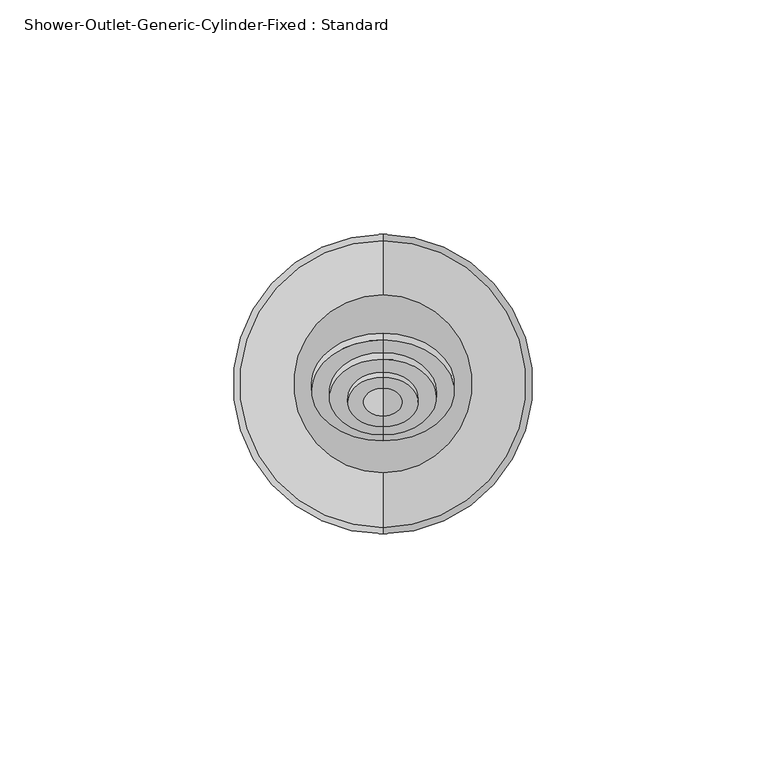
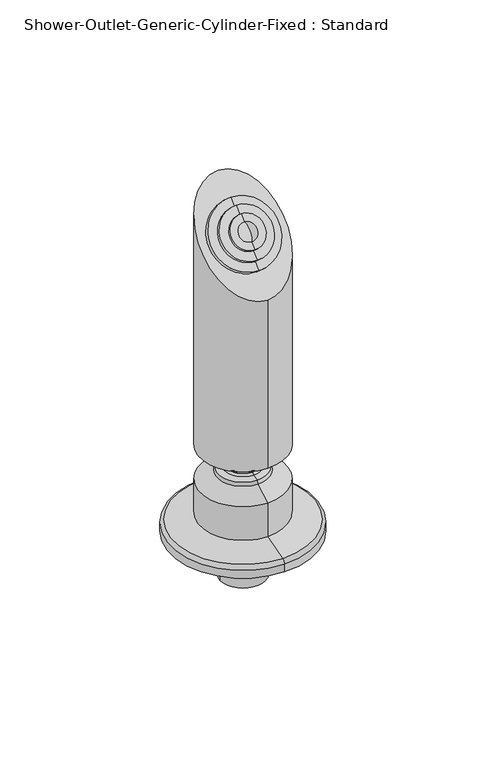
"""IFC4 building model written with IfcOpenShell, lengths in millimetres: flow terminal geometry, Shower-Outlet-Generic-Cylinder-Fixed : Standard."""

from ifc_helpers import new_model, si_unit, point, frame, origin, origin_2d, place, context, project, spatial, polyline, circle_curve, ellipse_curve, trimmed, segment, composite_curve, outline, extrude, source, transform, mapped, element, save
from ifc_brep_helpers import plane_surface, cylinder_surface, revolved_surface, advanced_brep


def shower_outlet_generic_cylinder_fixed_standard_5790de0d(model_context):
    return source(origin(), model_context, "Body", "SolidModel", [
        advanced_brep(
        [(0.0, -10.756032, 128.1039696), (0.0, 10.8105517, 149.6705533), (0.0, 0.0272599, 138.8872615), (0.0, -12.1702441, 129.5181817), (0.0, 9.3963396, 151.0847654), (0.0, -9.4719073, 132.2165184), (0.0, 6.6980029, 148.3864287), (0.0, -10.8861245, 133.6307355), (0.0, 5.2837858, 149.8006458), (0.0, -8.1037176, 136.4131424), (0.0, 2.5013789, 147.0182389), (0.0, -9.164373, 137.4737978), (0.0, 1.4407236, 148.0788943), (0.0, -6.8422888, 139.7958819), (0.0, -0.8813606, 145.7568102), (0.0, -5.3080659, 144.2225872)],
        [
            (0, 1, circle_curve(frame((0.0, 0.0272599, 138.8872615), z_axis=(0.0, 0.7071067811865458, -0.7071067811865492), x_axis=(0.0, 0.7071067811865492, 0.7071067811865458)), 15.2498776)),
            (1, 2),
            (2, 0),
            (1, 0, circle_curve(frame((0.0, 0.0272599, 138.8872615), z_axis=(0.0, 0.7071067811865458, -0.7071067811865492), x_axis=(0.0, 0.7071067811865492, 0.7071067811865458)), 15.2498776)),
            (3, 4, circle_curve(frame((0.0, -1.3869522, 140.3014735), z_axis=(0.0, 0.7071067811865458, -0.7071067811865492), x_axis=(0.0, 0.7071067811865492, 0.7071067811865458)), 15.2498776)),
            (4, 1),
            (0, 3),
            (4, 3, circle_curve(frame((0.0, -1.3869522, 140.3014735), z_axis=(0.0, 0.7071067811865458, -0.7071067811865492), x_axis=(0.0, 0.7071067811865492, 0.7071067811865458)), 15.2498776)),
            (5, 6, circle_curve(frame((0.0, -1.3869522, 140.3014735), z_axis=(0.0, 0.7071067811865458, -0.7071067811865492), x_axis=(0.0, 0.7071067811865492, 0.7071067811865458)), 11.4338532)),
            (6, 4),
            (3, 5),
            (6, 5, circle_curve(frame((0.0, -1.3869522, 140.3014735), z_axis=(0.0, 0.7071067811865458, -0.7071067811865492), x_axis=(0.0, 0.7071067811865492, 0.7071067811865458)), 11.4338532)),
            (7, 8, circle_curve(frame((0.0, -2.8011693, 141.7156907), z_axis=(0.0, 0.7071067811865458, -0.7071067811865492), x_axis=(0.0, 0.7071067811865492, 0.7071067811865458)), 11.4338532)),
            (8, 6),
            (5, 7),
            (8, 7, circle_curve(frame((0.0, -2.8011693, 141.7156907), z_axis=(0.0, 0.7071067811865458, -0.7071067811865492), x_axis=(0.0, 0.7071067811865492, 0.7071067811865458)), 11.4338532)),
            (9, 10, circle_curve(frame((0.0, -2.8011693, 141.7156907), z_axis=(0.0, 0.7071067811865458, -0.7071067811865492), x_axis=(0.0, 0.7071067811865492, 0.7071067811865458)), 7.4989357)),
            (10, 8),
            (7, 9),
            (10, 9, circle_curve(frame((0.0, -2.8011693, 141.7156907), z_axis=(0.0, 0.7071067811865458, -0.7071067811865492), x_axis=(0.0, 0.7071067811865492, 0.7071067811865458)), 7.4989357)),
            (11, 12, circle_curve(frame((0.0, -3.8618247, 142.776346), z_axis=(0.0, 0.7071067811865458, -0.7071067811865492), x_axis=(0.0, 0.7071067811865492, 0.7071067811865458)), 7.4989357)),
            (12, 10),
            (9, 11),
            (12, 11, circle_curve(frame((0.0, -3.8618247, 142.776346), z_axis=(0.0, 0.7071067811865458, -0.7071067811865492), x_axis=(0.0, 0.7071067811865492, 0.7071067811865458)), 7.4989357)),
            (13, 14, circle_curve(frame((0.0, -3.8618247, 142.776346), z_axis=(0.0, 0.7071067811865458, -0.7071067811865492), x_axis=(0.0, 0.7071067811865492, 0.7071067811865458)), 4.2150128)),
            (14, 12),
            (11, 13),
            (14, 13, circle_curve(frame((0.0, -3.8618247, 142.776346), z_axis=(0.0, 0.7071067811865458, -0.7071067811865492), x_axis=(0.0, 0.7071067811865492, 0.7071067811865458)), 4.2150128)),
            (15, 14, circle_curve(frame((0.0, -1.5138232, 140.4283445), z_axis=(-1.0, 0.0, 0.0), x_axis=(0.0, -1.0, 0.0)), 5.3658695)),
            (13, 15, circle_curve(frame((0.0, -1.5138232, 140.4283445), z_axis=(-1.0, 0.0, 0.0), x_axis=(0.0, 0.0, 1.0)), 5.3658695)),
        ],
        [
            plane_surface(frame((0.0, 0.0272599, 138.8872615), z_axis=(0.0, 0.7071067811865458, -0.7071067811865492), x_axis=(0.0, 0.7071067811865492, 0.7071067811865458))),
            cylinder_surface(frame((0.0, 0.0272599, 138.8872615), z_axis=(0.0, -0.7071067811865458, 0.7071067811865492), x_axis=(0.0, 0.7071067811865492, 0.7071067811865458)), 15.2498776),
            plane_surface(frame((0.0, -1.3869522, 140.3014735), z_axis=(0.0, -0.7071067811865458, 0.7071067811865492), x_axis=(0.0, 0.7071067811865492, 0.7071067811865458))),
            cylinder_surface(frame((0.0, 0.0272599, 138.8872615), z_axis=(0.0, -0.7071067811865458, 0.7071067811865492), x_axis=(0.0, 0.7071067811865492, 0.7071067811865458)), 11.4338532),
            plane_surface(frame((0.0, -2.8011693, 141.7156907), z_axis=(0.0, -0.7071067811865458, 0.7071067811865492), x_axis=(0.0, 0.7071067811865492, 0.7071067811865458))),
            cylinder_surface(frame((0.0, 0.0272599, 138.8872615), z_axis=(0.0, -0.7071067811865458, 0.7071067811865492), x_axis=(0.0, 0.7071067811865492, 0.7071067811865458)), 7.4989357),
            plane_surface(frame((0.0, -3.8618247, 142.776346), z_axis=(0.0, -0.7071067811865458, 0.7071067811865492), x_axis=(0.0, 0.7071067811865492, 0.7071067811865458))),
            revolved_surface(trimmed(ellipse_curve(frame((0.0, -1.5138232, 140.4283445), z_axis=(1.0, 0.0, 0.0), x_axis=(0.0, -1.0, 0.0)), 5.3658695, 5.3658695), [point((0.0, -0.8813606, 145.7568102))], [point((0.0, -5.3080659, 144.2225872))], True, "CARTESIAN"), (0.0, 0.0272599, 138.8872615), (0.0, -0.7071067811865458, 0.7071067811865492)),
        ],
        [
            (0, [[1, 2, 3]]),
            (0, [[4, -3, -2]]),
            (1, [[5, 6, -1, 7]]),
            (1, [[8, -7, -4, -6]]),
            (2, [[9, 10, -5, 11]]),
            (2, [[12, -11, -8, -10]]),
            (3, [[13, 14, -9, 15]]),
            (3, [[16, -15, -12, -14]]),
            (4, [[17, 18, -13, 19]]),
            (4, [[20, -19, -16, -18]]),
            (5, [[21, 22, -17, 23]]),
            (5, [[24, -23, -20, -22]]),
            (6, [[25, 26, -21, 27]]),
            (6, [[28, -27, -24, -26]]),
            (7, [[29, -25, 30]]),
            (7, [[-30, -28, -29]]),
        ],
    ),
        extrude(outline(composite_curve([segment(trimmed(circle_curve(origin_2d(), 10.0), [point((-10.0, 0.0))], [point((10.0, 0.0))], False, "CARTESIAN"), True, "CONTINUOUS"), segment(trimmed(circle_curve(origin_2d(), 10.0), [point((10.0, 0.0))], [point((-10.0, 0.0))], False, "CARTESIAN"), True, "CONTINUOUS")], self_intersect=False)), frame((0.0, 0.0, -20.0), z_axis=(0.0, 0.0, 1.0), x_axis=(1.0, 0.0, 0.0)), (0.0, 0.0, 1.0), 20.0),
        advanced_brep(
        [(0.0, -31.9808627, 0.0), (0.0, 31.9808627, 0.0), (0.0, 0.0, 0.0), (0.0, -31.9808627, 3.6052638), (0.0, 31.9808627, 3.6052638), (0.0, -30.6517234, 5.4616409), (0.0, 30.6517234, 5.4616409), (0.0, -18.9750954, 8.6365109), (0.0, 18.9750954, 8.6365109), (0.0, -18.9750954, 24.4998718), (0.0, 18.9750954, 24.4998718), (0.0, -11.4845722, 28.829999), (0.0, 11.4845722, 28.829999), (0.0, -10.9564159, 30.3300004), (0.0, 10.9564159, 30.3300004), (0.0, -8.2439585, 31.0568012), (0.0, 8.2439585, 31.0568012), (0.0, -7.4902734, 32.0390227), (0.0, 7.4902734, 32.0390227), (0.0, -7.4902734, 33.6160812), (0.0, 7.4902734, 33.6160812), (0.0, -7.9272244, 34.4761877), (0.0, 7.9272244, 34.4761877), (0.0, -11.0479028, 37.8600005), (0.0, 11.0479028, 37.8600005), (0.0, -14.505332, 37.8600005), (0.0, 14.505332, 37.8600005), (0.0, -15.4924997, 38.4330701), (0.0, 15.4924997, 38.4330701), (0.0, -15.9998751, 39.3142833), (0.0, 15.9998751, 39.3142833), (0.0, -15.9998751, 40.8600014), (0.0, 15.9998751, 40.8600014), (0.0, -18.9997378, 40.8600014), (0.0, 18.9997378, 40.8600014), (0.0, -18.9997378, 119.8602638), (0.0, 18.9997378, 157.8597394)],
        [
            (0, 1, circle_curve(frame((0.0, 0.0, 0.0), z_axis=(0.0, 0.0, -1.0), x_axis=(0.0, 1.0, 0.0)), 31.9808627)),
            (1, 2),
            (2, 0),
            (1, 0, circle_curve(frame((0.0, 0.0, 0.0), z_axis=(0.0, 0.0, -1.0), x_axis=(0.0, 1.0, 0.0)), 31.9808627)),
            (0, 3),
            (3, 4, circle_curve(frame((0.0, 0.0, 3.6052638), z_axis=(0.0, 0.0, -1.0), x_axis=(0.0, 1.0, 0.0)), 31.9808627)),
            (4, 1),
            (4, 3, circle_curve(frame((0.0, 0.0, 3.6052638), z_axis=(0.0, 0.0, -1.0), x_axis=(0.0, 1.0, 0.0)), 31.9808627)),
            (3, 5, circle_curve(frame((0.0, -30.0199143, 3.6052638), z_axis=(-1.0, 0.0, 0.0), x_axis=(0.0, 1.0, 0.0)), 1.9609485)),
            (5, 6, circle_curve(frame((0.0, 0.0, 5.4616409), z_axis=(0.0, 0.0, -1.0), x_axis=(0.0, 1.0, 0.0)), 30.6517234)),
            (6, 4, circle_curve(frame((0.0, 30.0199143, 3.6052638), z_axis=(-1.0, 0.0, 0.0), x_axis=(0.0, -1.0, 0.0)), 1.9609485)),
            (6, 5, circle_curve(frame((0.0, 0.0, 5.4616409), z_axis=(0.0, 0.0, -1.0), x_axis=(0.0, 1.0, 0.0)), 30.6517234)),
            (5, 7, circle_curve(frame((0.0, 0.5254572, -86.1429354), z_axis=(-1.0, 0.0, 0.0), x_axis=(0.0, 1.0, 0.0)), 96.7647405)),
            (7, 8, circle_curve(frame((0.0, 0.0, 8.6365109), z_axis=(0.0, 0.0, -1.0), x_axis=(0.0, 1.0, 0.0)), 18.9750954)),
            (8, 6, circle_curve(frame((0.0, -0.5254572, -86.1429354), z_axis=(-1.0, 0.0, 0.0), x_axis=(0.0, -1.0, 0.0)), 96.7647405)),
            (8, 7, circle_curve(frame((0.0, 0.0, 8.6365109), z_axis=(0.0, 0.0, -1.0), x_axis=(0.0, 1.0, 0.0)), 18.9750954)),
            (7, 9),
            (9, 10, circle_curve(frame((0.0, 0.0, 24.4998718), z_axis=(0.0, 0.0, -1.0), x_axis=(0.0, 1.0, 0.0)), 18.9750954)),
            (10, 8),
            (10, 9, circle_curve(frame((0.0, 0.0, 24.4998718), z_axis=(0.0, 0.0, -1.0), x_axis=(0.0, 1.0, 0.0)), 18.9750954)),
            (9, 11),
            (11, 12, circle_curve(frame((0.0, 0.0, 28.829999), z_axis=(0.0, 0.0, -1.0), x_axis=(0.0, 1.0, 0.0)), 11.4845722)),
            (12, 10),
            (12, 11, circle_curve(frame((0.0, 0.0, 28.829999), z_axis=(0.0, 0.0, -1.0), x_axis=(0.0, 1.0, 0.0)), 11.4845722)),
            (11, 13),
            (13, 14, circle_curve(frame((0.0, 0.0, 30.3300004), z_axis=(0.0, 0.0, -1.0), x_axis=(0.0, 1.0, 0.0)), 10.9564159)),
            (14, 12),
            (14, 13, circle_curve(frame((0.0, 0.0, 30.3300004), z_axis=(0.0, 0.0, -1.0), x_axis=(0.0, 1.0, 0.0)), 10.9564159)),
            (13, 15),
            (15, 16, circle_curve(frame((0.0, 0.0, 31.0568012), z_axis=(0.0, 0.0, -1.0), x_axis=(0.0, 1.0, 0.0)), 8.2439585)),
            (16, 14),
            (16, 15, circle_curve(frame((0.0, 0.0, 31.0568012), z_axis=(0.0, 0.0, -1.0), x_axis=(0.0, 1.0, 0.0)), 8.2439585)),
            (15, 17, circle_curve(frame((0.0, -8.507144, 32.0390227), z_axis=(1.0, 0.0, 0.0), x_axis=(0.0, 1.0, 0.0)), 1.0168706)),
            (17, 18, circle_curve(frame((0.0, 0.0, 32.0390227), z_axis=(0.0, 0.0, -1.0), x_axis=(0.0, 1.0, 0.0)), 7.4902734)),
            (18, 16, circle_curve(frame((0.0, 8.507144, 32.0390227), z_axis=(1.0, 0.0, 0.0), x_axis=(0.0, -1.0, 0.0)), 1.0168706)),
            (18, 17, circle_curve(frame((0.0, 0.0, 32.0390227), z_axis=(0.0, 0.0, -1.0), x_axis=(0.0, 1.0, 0.0)), 7.4902734)),
            (17, 19),
            (19, 20, circle_curve(frame((0.0, 0.0, 33.6160812), z_axis=(0.0, 0.0, -1.0), x_axis=(0.0, 1.0, 0.0)), 7.4902734)),
            (20, 18),
            (20, 19, circle_curve(frame((0.0, 0.0, 33.6160812), z_axis=(0.0, 0.0, -1.0), x_axis=(0.0, 1.0, 0.0)), 7.4902734)),
            (19, 21, circle_curve(frame((0.0, -8.5552777, 33.6160812), z_axis=(1.0, 0.0, 0.0), x_axis=(0.0, 1.0, 0.0)), 1.0650043)),
            (21, 22, circle_curve(frame((0.0, 0.0, 34.4761877), z_axis=(0.0, 0.0, -1.0), x_axis=(0.0, 1.0, 0.0)), 7.9272244)),
            (22, 20, circle_curve(frame((0.0, 8.5552777, 33.6160812), z_axis=(1.0, 0.0, 0.0), x_axis=(0.0, -1.0, 0.0)), 1.0650043)),
            (22, 21, circle_curve(frame((0.0, 0.0, 34.4761877), z_axis=(0.0, 0.0, -1.0), x_axis=(0.0, 1.0, 0.0)), 7.9272244)),
            (21, 23, circle_curve(frame((0.0, -0.9267556, 44.0631906), z_axis=(-1.0, 0.0, 0.0), x_axis=(0.0, 1.0, 0.0)), 11.8708546)),
            (23, 24, circle_curve(frame((0.0, 0.0, 37.8600005), z_axis=(0.0, 0.0, -1.0), x_axis=(0.0, 1.0, 0.0)), 11.0479028)),
            (24, 22, circle_curve(frame((0.0, 0.9267556, 44.0631906), z_axis=(-1.0, 0.0, 0.0), x_axis=(0.0, -1.0, 0.0)), 11.8708546)),
            (24, 23, circle_curve(frame((0.0, 0.0, 37.8600005), z_axis=(0.0, 0.0, -1.0), x_axis=(0.0, 1.0, 0.0)), 11.0479028)),
            (23, 25),
            (25, 26, circle_curve(frame((0.0, 0.0, 37.8600005), z_axis=(0.0, 0.0, -1.0), x_axis=(0.0, 1.0, 0.0)), 14.505332)),
            (26, 24),
            (26, 25, circle_curve(frame((0.0, 0.0, 37.8600005), z_axis=(0.0, 0.0, -1.0), x_axis=(0.0, 1.0, 0.0)), 14.505332)),
            (25, 27),
            (27, 28, circle_curve(frame((0.0, 0.0, 38.4330701), z_axis=(0.0, 0.0, -1.0), x_axis=(0.0, 1.0, 0.0)), 15.4924997)),
            (28, 26),
            (28, 27, circle_curve(frame((0.0, 0.0, 38.4330701), z_axis=(0.0, 0.0, -1.0), x_axis=(0.0, 1.0, 0.0)), 15.4924997)),
            (27, 29, circle_curve(frame((0.0, -14.9809386, 39.3142833), z_axis=(-1.0, 0.0, 0.0), x_axis=(0.0, 1.0, 0.0)), 1.0189364)),
            (29, 30, circle_curve(frame((0.0, 0.0, 39.3142833), z_axis=(0.0, 0.0, -1.0), x_axis=(0.0, 1.0, 0.0)), 15.9998751)),
            (30, 28, circle_curve(frame((0.0, 14.9809386, 39.3142833), z_axis=(-1.0, 0.0, 0.0), x_axis=(0.0, -1.0, 0.0)), 1.0189364)),
            (30, 29, circle_curve(frame((0.0, 0.0, 39.3142833), z_axis=(0.0, 0.0, -1.0), x_axis=(0.0, 1.0, 0.0)), 15.9998751)),
            (29, 31),
            (31, 32, circle_curve(frame((0.0, 0.0, 40.8600014), z_axis=(0.0, 0.0, -1.0), x_axis=(0.0, 1.0, 0.0)), 15.9998751)),
            (32, 30),
            (32, 31, circle_curve(frame((0.0, 0.0, 40.8600014), z_axis=(0.0, 0.0, -1.0), x_axis=(0.0, 1.0, 0.0)), 15.9998751)),
            (31, 33),
            (33, 34, circle_curve(frame((0.0, 0.0, 40.8600014), z_axis=(0.0, 0.0, -1.0), x_axis=(0.0, 1.0, 0.0)), 18.9997378)),
            (34, 32),
            (34, 33, circle_curve(frame((0.0, 0.0, 40.8600014), z_axis=(0.0, 0.0, -1.0), x_axis=(0.0, 1.0, 0.0)), 18.9997378)),
            (33, 35),
            (35, 36, ellipse_curve(frame((0.0, 0.0, 138.8600016), z_axis=(0.0, 0.7071067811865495, -0.7071067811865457), x_axis=(0.0, 0.7071067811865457, 0.7071067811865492)), 26.8696869, 18.9997378)),
            (36, 34),
            (36, 35, ellipse_curve(frame((0.0, 0.0, 138.8600016), z_axis=(0.0, 0.7071067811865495, -0.7071067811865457), x_axis=(0.0, 0.7071067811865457, 0.7071067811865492)), 26.8696869, 18.9997378)),
        ],
        [
            plane_surface(frame((0.0, 0.0, 0.0), z_axis=(0.0, 0.0, -1.0), x_axis=(0.0, 1.0, 0.0))),
            cylinder_surface(frame((0.0, 0.0, -7.196929), z_axis=(0.0, 0.0, 1.0), x_axis=(0.0, 1.0, 0.0)), 31.9808627),
            revolved_surface(trimmed(ellipse_curve(frame((0.0, 30.0199143, 3.6052638), z_axis=(1.0, 0.0, 0.0), x_axis=(0.0, -1.0, 0.0)), 1.9609485, 1.9609485), [point((0.0, 31.9808627, 3.6052638))], [point((0.0, 30.6517234, 5.4616409))], True, "CARTESIAN"), (0.0, 0.0, -7.196929), (0.0, 0.0, 1.0)),
            revolved_surface(trimmed(ellipse_curve(frame((0.0, -0.5254572, -86.1429354), z_axis=(1.0, 0.0, 0.0), x_axis=(0.0, -1.0, 0.0)), 96.7647405, 96.7647405), [point((0.0, 30.6517234, 5.4616409))], [point((0.0, 18.9750954, 8.6365109))], True, "CARTESIAN"), (0.0, 0.0, -7.196929), (0.0, 0.0, 1.0)),
            cylinder_surface(frame((0.0, 0.0, -7.196929), z_axis=(0.0, 0.0, 1.0), x_axis=(0.0, 1.0, 0.0)), 18.9750954),
            revolved_surface(polyline([(0.0, 18.9750954, 24.4998718), (0.0, 11.4845722, 28.829999)]), (0.0, 0.0, -7.196929), (0.0, 0.0, 1.0)),
            revolved_surface(polyline([(0.0, 11.4845722, 28.829999), (0.0, 10.9564159, 30.3300004)]), (0.0, 0.0, -7.196929), (0.0, 0.0, 1.0)),
            revolved_surface(polyline([(0.0, 10.9564159, 30.3300004), (0.0, 8.2439585, 31.0568012)]), (0.0, 0.0, -7.196929), (0.0, 0.0, 1.0)),
            revolved_surface(trimmed(ellipse_curve(frame((0.0, 8.507144, 32.0390227), z_axis=(-1.0, 0.0, 0.0), x_axis=(0.0, -1.0, 0.0)), 1.0168706, 1.0168706), [point((0.0, 8.2439585, 31.0568012))], [point((0.0, 7.4902734, 32.0390227))], True, "CARTESIAN"), (0.0, 0.0, -7.196929), (0.0, 0.0, 1.0)),
            cylinder_surface(frame((0.0, 0.0, -7.196929), z_axis=(0.0, 0.0, 1.0), x_axis=(0.0, 1.0, 0.0)), 7.4902734),
            revolved_surface(trimmed(ellipse_curve(frame((0.0, 8.5552777, 33.6160812), z_axis=(-1.0, 0.0, 0.0), x_axis=(0.0, -1.0, 0.0)), 1.0650043, 1.0650043), [point((0.0, 7.4902734, 33.6160812))], [point((0.0, 7.9272244, 34.4761877))], True, "CARTESIAN"), (0.0, 0.0, -7.196929), (0.0, 0.0, 1.0)),
            revolved_surface(trimmed(ellipse_curve(frame((0.0, 0.9267556, 44.0631906), z_axis=(1.0, 0.0, 0.0), x_axis=(0.0, -1.0, 0.0)), 11.8708546, 11.8708546), [point((0.0, 7.9272244, 34.4761877))], [point((0.0, 11.0479028, 37.8600005))], True, "CARTESIAN"), (0.0, 0.0, -7.196929), (0.0, 0.0, 1.0)),
            plane_surface(frame((0.0, 0.0, 37.8600005), z_axis=(0.0, 0.0, -1.0), x_axis=(0.0, 1.0, 0.0))),
            revolved_surface(polyline([(0.0, 14.505332, 37.8600005), (0.0, 15.4924997, 38.4330701)]), (0.0, 0.0, -7.196929), (0.0, 0.0, 1.0)),
            revolved_surface(trimmed(ellipse_curve(frame((0.0, 14.9809386, 39.3142833), z_axis=(1.0, 0.0, 0.0), x_axis=(0.0, -1.0, 0.0)), 1.0189364, 1.0189364), [point((0.0, 15.4924997, 38.4330701))], [point((0.0, 15.9998751, 39.3142833))], True, "CARTESIAN"), (0.0, 0.0, -7.196929), (0.0, 0.0, 1.0)),
            cylinder_surface(frame((0.0, 0.0, -7.196929), z_axis=(0.0, 0.0, 1.0), x_axis=(0.0, 1.0, 0.0)), 15.9998751),
            plane_surface(frame((0.0, 0.0, 40.8600014), z_axis=(0.0, 0.0, -1.0), x_axis=(0.0, 1.0, 0.0))),
            cylinder_surface(frame((0.0, 0.0, -7.196929), z_axis=(0.0, 0.0, 1.0), x_axis=(0.0, 1.0, 0.0)), 18.9997378),
            plane_surface(frame((100.0, -23.4840393, 115.3759623), z_axis=(0.0, -0.7071067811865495, 0.7071067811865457), x_axis=(-1.0, 0.0, 0.0))),
        ],
        [
            (0, [[1, 2, 3]]),
            (0, [[-2, 4, -3]]),
            (1, [[-1, 5, 6, 7]]),
            (1, [[-4, -7, 8, -5]]),
            (2, [[-6, 9, 10, 11]]),
            (2, [[-8, -11, 12, -9]]),
            (3, [[-10, 13, 14, 15]]),
            (3, [[-12, -15, 16, -13]]),
            (4, [[-14, 17, 18, 19]]),
            (4, [[-16, -19, 20, -17]]),
            (5, [[-18, 21, 22, 23]]),
            (5, [[-20, -23, 24, -21]]),
            (6, [[-22, 25, 26, 27]]),
            (6, [[-24, -27, 28, -25]]),
            (7, [[-26, 29, 30, 31]]),
            (7, [[-28, -31, 32, -29]]),
            (8, [[-30, 33, 34, 35]]),
            (8, [[-32, -35, 36, -33]]),
            (9, [[-34, 37, 38, 39]]),
            (9, [[-36, -39, 40, -37]]),
            (10, [[-38, 41, 42, 43]]),
            (10, [[-40, -43, 44, -41]]),
            (11, [[-42, 45, 46, 47]]),
            (11, [[-44, -47, 48, -45]]),
            (12, [[-46, 49, 50, 51]]),
            (12, [[-48, -51, 52, -49]]),
            (13, [[-50, 53, 54, 55]]),
            (13, [[-52, -55, 56, -53]]),
            (14, [[-54, 57, 58, 59]]),
            (14, [[-56, -59, 60, -57]]),
            (15, [[-58, 61, 62, 63]]),
            (15, [[-60, -63, 64, -61]]),
            (16, [[-62, 65, 66, 67]]),
            (16, [[-64, -67, 68, -65]]),
            (17, [[-66, 69, 70, 71]]),
            (17, [[-68, -71, 72, -69]]),
            (18, [[-70, -72]]),
        ],
    ),
    ])


if __name__ == "__main__":
    model = new_model("IFC4")
    model_context = context("Model", 3, world=origin())
    ifc_project = project(units=[si_unit("LENGTHUNIT", "METRE", prefix="MILLI")], contexts=[model_context])
    site = spatial("IfcSite", under=ifc_project)
    building = spatial("IfcBuilding", under=site)
    placement = place(None, origin())
    shower_outlet_generic_cylinder_fixed_standard_shape = shower_outlet_generic_cylinder_fixed_standard_5790de0d(model_context)
    element("IfcFlowTerminal", 1, ObjectType="Shower-Outlet-Generic-Cylinder-Fixed : Standard", at=placement, inside=building, context=model_context, shape_type="MappedRepresentation", body=[
        mapped(shower_outlet_generic_cylinder_fixed_standard_shape, transform((0.0, 0.0, 0.0), x_axis=(1.0, 0.0, 0.0), y_axis=(0.0, 1.0, 0.0), z_axis=(0.0, 0.0, 1.0))),
    ])
    save(model, "model.ifc")
